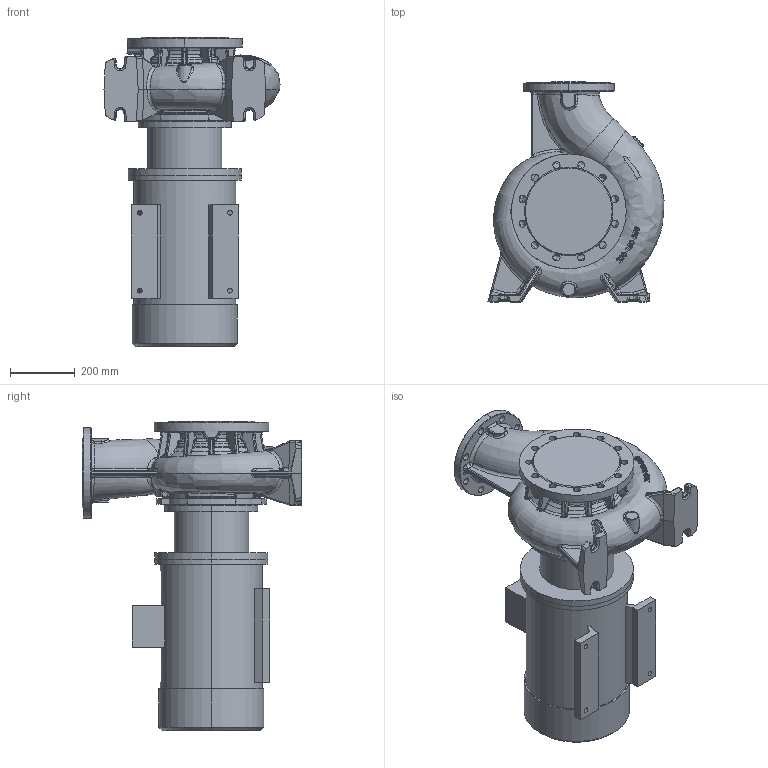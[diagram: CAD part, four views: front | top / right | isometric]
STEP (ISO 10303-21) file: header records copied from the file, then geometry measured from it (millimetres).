
FILE_DESCRIPTION (( 'STEP AP214' ), '1' );
FILE_NAME ('KRM 200-150-250-4-18,5.STEP', '2026-04-17T12:12:10', ( '' ), ( '' ), 'SwSTEP 2.0', 'SolidWorks 2016', '' );
FILE_SCHEMA (( 'AUTOMOTIVE_DESIGN' ));
Length unit declared in the file: millimetre
Products named in the file (1): KRM 200-150-250-4-18,5
Bounding box: 544.53 x 680 x 955.8 mm (x, y, z)
Volume: 96376995.6 mm3; surface area: 2770010.8 mm2
Topology: 8 solids, 8 shells, 1483 faces, 3639 edges, 2173 vertices
Faces by surface type: bspline 661, cylinder 291, plane 263, torus 147, cone 99, sphere 22
Entity records: 148888 total; most frequent: CARTESIAN_POINT 102634, ORIENTED_EDGE 7234, DIRECTION 4971, EDGE_CURVE 3617, VERTEX_POINT 2173, AXIS2_PLACEMENT_3D 2117, EDGE_LOOP 1554, UNCERTAINTY_MEASURE_WITH_UNIT 1493
